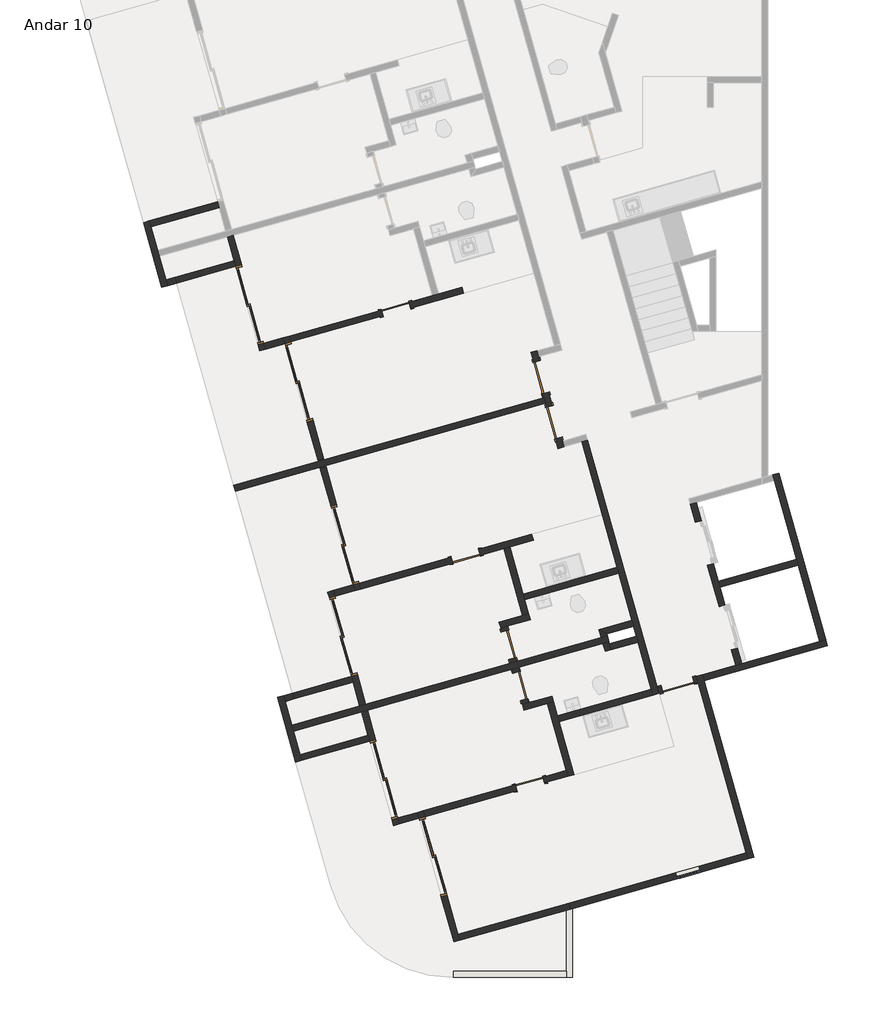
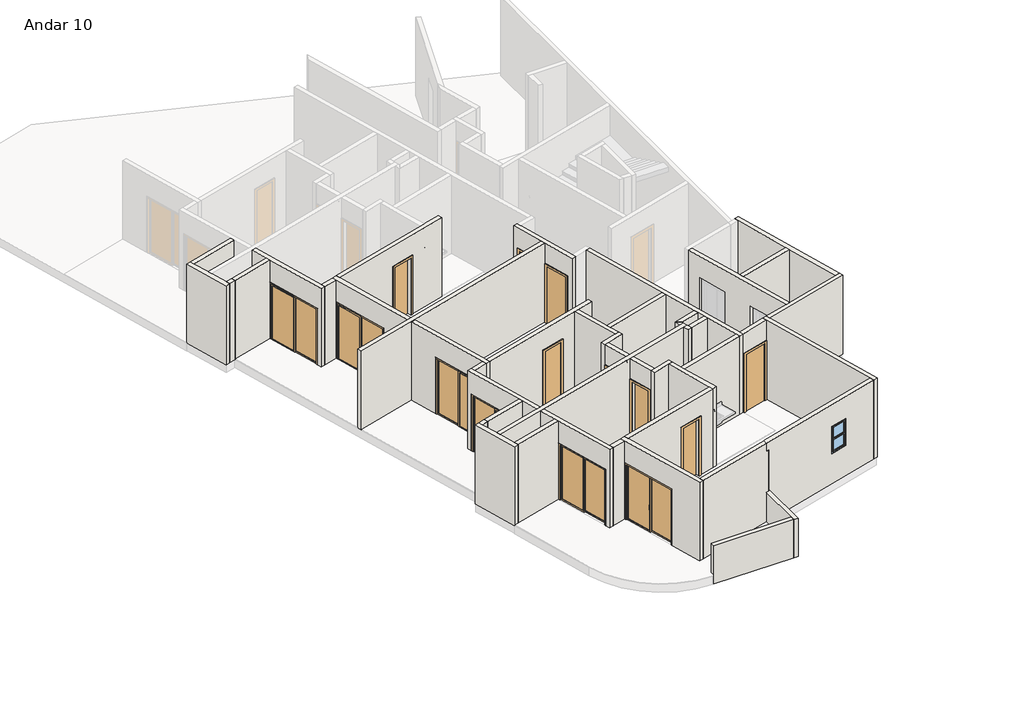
# One storey, part 1 of 3: 46 walls, 14 doors, 1 window.
"""IFC4 building model written with IfcOpenShell, lengths in millimetres."""

from ifc_helpers import new_model, si_unit, frame, origin, place, context, project, spatial, polyline, outline, extrude, faceted_brep, transform, mapped, element, save
from components import p2_80cm_9d4be4ef, p2_80cm_083652d6, p3_70cm_ef4d15e3, p3_70cm_0a698c7c, p4_correr_200cm_eaaa0877, p4_correr_200cm_830b8f20, bx_60cm_cef95a5c

model = new_model("IFC4")

# Units and contexts
model_context = context("Model", 3, world=origin())
ifc_project = project(units=[si_unit("LENGTHUNIT", "METRE", prefix="MILLI")], contexts=[model_context])

# Site, building, storey
site = spatial("IfcSite", under=ifc_project)
building = spatial("IfcBuilding", under=site)
storey = spatial("IfcBuildingStorey", under=building, Name="Andar 10", Elevation=79750.0)

# Doors
placement = place(None, origin())
p2_80cm_shape = p2_80cm_9d4be4ef(model_context)
element("IfcDoor", 1, ObjectType="M_Folha única1 : P2 - 80CM", at=placement, inside=storey, context=model_context, shape_type="MappedRepresentation", body=[
    mapped(p2_80cm_shape, transform((-80566.3456776, 19693.5423602, 79750.0), x_axis=(0.2717679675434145, -0.9623628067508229, 0.0), y_axis=(0.9623628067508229, 0.2717679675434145, 0.0), z_axis=(0.0, 0.0, 1.0))),
])
element("IfcDoor", 2, ObjectType="M_Folha única1 : P2 - 80CM", at=placement, inside=storey, context=model_context, shape_type="MappedRepresentation", body=[
    mapped(p2_80cm_shape, transform((-77213.6668366, 12144.847648, 79750.0), x_axis=(0.9623628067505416, 0.2717679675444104, 0.0), y_axis=(-0.2717679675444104, 0.9623628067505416, 0.0), z_axis=(0.0, 0.0, 1.0))),
])
p2_80cm_2_shape = p2_80cm_083652d6(model_context)
element("IfcDoor", 3, ObjectType="M_Folha única1 : P2 - 80CM", at=placement, inside=storey, context=model_context, shape_type="MappedRepresentation", body=[
    mapped(p2_80cm_2_shape, transform((-80253.8125149, 18586.8251325, 79750.0), x_axis=(-0.2717679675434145, 0.9623628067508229, 0.0), y_axis=(-0.9623628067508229, -0.2717679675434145, 0.0), z_axis=(0.0, 0.0, 1.0))),
])
p3_70cm_shape = p3_70cm_ef4d15e3(model_context)
element("IfcDoor", 4, ObjectType="M_Folha única1 : P3 - 70CM", at=placement, inside=storey, context=model_context, shape_type="MappedRepresentation", body=[
    mapped(p3_70cm_shape, transform((-84129.1775441, 21363.1168842, 79750.0), x_axis=(0.9623628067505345, 0.27176796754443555, 0.0), y_axis=(-0.27176796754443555, 0.9623628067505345, 0.0), z_axis=(0.0, 0.0, 1.0))),
])
element("IfcDoor", 5, ObjectType="M_Folha única1 : P3 - 70CM", at=placement, inside=storey, context=model_context, shape_type="MappedRepresentation", body=[
    mapped(p3_70cm_shape, transform((-80840.7851368, 9718.5269225, 79750.0), x_axis=(0.9623628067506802, 0.2717679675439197, 0.0), y_axis=(-0.2717679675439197, 0.9623628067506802, 0.0), z_axis=(0.0, 0.0, 1.0))),
])
element("IfcDoor", 6, ObjectType="M_Folha única1 : P3 - 70CM", at=placement, inside=storey, context=model_context, shape_type="MappedRepresentation", body=[
    mapped(p3_70cm_shape, transform((-81362.5862327, 13130.1209218, 79750.0), x_axis=(0.27176796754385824, -0.9623628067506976, 0.0), y_axis=(0.9623628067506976, 0.27176796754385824, 0.0), z_axis=(0.0, 0.0, 1.0))),
])
p3_70cm_2_shape = p3_70cm_0a698c7c(model_context)
element("IfcDoor", 7, ObjectType="M_Folha única1 : P3 - 70CM", at=placement, inside=storey, context=model_context, shape_type="MappedRepresentation", body=[
    mapped(p3_70cm_2_shape, transform((-81077.2298668, 12119.6399747, 79750.0), x_axis=(-0.27176796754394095, 0.9623628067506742, 0.0), y_axis=(-0.9623628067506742, -0.27176796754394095, 0.0), z_axis=(0.0, 0.0, 1.0))),
])
element("IfcDoor", 8, ObjectType="M_Folha única1 : P3 - 70CM", at=placement, inside=storey, context=model_context, shape_type="MappedRepresentation", body=[
    mapped(p3_70cm_2_shape, transform((-82417.0393485, 15300.2312016, 79750.0), x_axis=(0.9623628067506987, 0.2717679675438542, 0.0), y_axis=(-0.2717679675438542, 0.9623628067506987, 0.0), z_axis=(0.0, 0.0, 1.0))),
])
p4_correr_200cm_shape = p4_correr_200cm_eaaa0877(model_context)
element("IfcDoor", 9, ObjectType="Porta de correr dupla envidraçada sem revestimento : P4 - CORRER - 200CM", at=placement, inside=storey, context=model_context, shape_type="MappedRepresentation", body=[
    mapped(p4_correr_200cm_shape, transform((-86511.4049952, 19573.3416554, 79750.0), x_axis=(0.2717679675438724, -0.9623628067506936, 0.0), y_axis=(0.9623628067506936, 0.2717679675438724, 0.0), z_axis=(0.0, 0.0, 1.0))),
])
element("IfcDoor", 10, ObjectType="Porta de correr dupla envidraçada sem revestimento : P4 - CORRER - 200CM", at=placement, inside=storey, context=model_context, shape_type="MappedRepresentation", body=[
    mapped(p4_correr_200cm_shape, transform((-87717.4207223, 21466.8516126, 79750.0), x_axis=(0.2717679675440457, -0.9623628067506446, 0.0), y_axis=(0.9623628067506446, 0.2717679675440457, 0.0), z_axis=(0.0, 0.0, 1.0))),
])
element("IfcDoor", 11, ObjectType="Porta de correr dupla envidraçada sem revestimento : P4 - CORRER - 200CM", at=placement, inside=storey, context=model_context, shape_type="MappedRepresentation", body=[
    mapped(p4_correr_200cm_shape, transform((-84429.028315, 9822.2616509, 79750.0), x_axis=(-0.27176796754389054, 0.9623628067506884, 0.0), y_axis=(-0.9623628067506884, -0.27176796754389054, 0.0), z_axis=(0.0, 0.0, 1.0))),
])
element("IfcDoor", 12, ObjectType="Porta de correr dupla envidraçada sem revestimento : P4 - CORRER - 200CM", at=placement, inside=storey, context=model_context, shape_type="MappedRepresentation", body=[
    mapped(p4_correr_200cm_shape, transform((-83223.012588, 7928.7516937, 79750.0), x_axis=(-0.2717679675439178, 0.9623628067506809, 0.0), y_axis=(-0.9623628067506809, -0.2717679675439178, 0.0), z_axis=(0.0, 0.0, 1.0))),
])
p4_correr_200cm_2_shape = p4_correr_200cm_830b8f20(model_context)
element("IfcDoor", 13, ObjectType="Porta de correr dupla envidraçada sem revestimento : P4 - CORRER - 200CM", at=placement, inside=storey, context=model_context, shape_type="MappedRepresentation", body=[
    mapped(p4_correr_200cm_2_shape, transform((-85383.5679299, 15579.5360073, 79750.0), x_axis=(-0.2717679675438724, 0.9623628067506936, 0.0), y_axis=(-0.9623628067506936, -0.2717679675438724, 0.0), z_axis=(0.0, 0.0, 1.0))),
])
element("IfcDoor", 14, ObjectType="Porta de correr dupla envidraçada sem revestimento : P4 - CORRER - 200CM", at=placement, inside=storey, context=model_context, shape_type="MappedRepresentation", body=[
    mapped(p4_correr_200cm_2_shape, transform((-85420.9813965, 13334.8858955, 79750.0), x_axis=(-0.27176796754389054, 0.9623628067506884, 0.0), y_axis=(-0.9623628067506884, -0.27176796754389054, 0.0), z_axis=(0.0, 0.0, 1.0))),
])

# Walls
element("IfcWall", 15, ObjectType="Básica .15 - Externa", at=placement, inside=storey, context=model_context, shape_type="Brep", body=[
    faceted_brep([(-75344.9919691, 7919.3931149, 79750.0), (-76567.7484146, 12249.3196164, 79750.0), (-76608.5136097, 12393.6740374, 79750.0), (-76608.5136097, 12393.6740374, 82650.0), (-76567.7484146, 12249.3196164, 82650.0), (-75344.9919691, 7919.3931149, 82650.0), (-75489.3463901, 7878.6279198, 79750.0), (-75489.3463901, 7878.6279198, 82650.0), (-75530.1115852, 8022.9823408, 82650.0), (-76712.1028356, 12208.5544213, 82650.0), (-76752.8680308, 12352.9088423, 82650.0), (-76752.8680308, 12352.9088423, 79750.0), (-76712.1028356, 12208.5544213, 79750.0), (-75530.1115852, 8022.9823408, 79750.0)], [[[0, 1, 2, 3, 4, 5]], [[6, 7, 8, 9, 10, 11, 12, 13]], [[2, 1, 0, 6, 13, 12, 11]], [[5, 4, 3, 10, 9, 8, 7]], [[0, 5, 7, 6]], [[3, 2, 11, 10]]]),
])
element("IfcWall", 16, ObjectType="Básica .15 -  Interna", at=placement, inside=storey, context=model_context, shape_type="Brep", body=[
    faceted_brep([(-80529.815701, 19288.21464, 79750.0), (-80502.6389043, 19191.9783593, 79750.0), (-80461.8737092, 19047.6239383, 79750.0), (-80434.6969124, 18951.3876576, 79750.0), (-80434.6969124, 18951.3876576, 81850.0), (-80217.2825384, 18181.4974122, 81850.0), (-80217.2825384, 18181.4974122, 79750.0), (-80149.3405465, 17940.9067105, 79750.0), (-80149.3405465, 17940.9067105, 82650.0), (-80461.8737092, 19047.6239383, 82650.0), (-80502.6389043, 19191.9783593, 82650.0), (-80815.172067, 20298.695587, 82650.0), (-80815.172067, 20298.695587, 79750.0), (-80747.2300751, 20058.1048854, 79750.0), (-80747.2300751, 20058.1048854, 81850.0), (-80529.815701, 19288.21464, 81850.0), (-80290.3424914, 18992.1528527, 81850.0), (-80290.3424914, 18992.1528527, 79750.0), (-80385.46128, 19328.9798351, 79750.0), (-80385.46128, 19328.9798351, 81850.0), (-80602.8756541, 20098.8700805, 81850.0), (-80602.8756541, 20098.8700805, 79750.0), (-80630.0524508, 20195.1063612, 79750.0), (-80670.817646, 20339.4607822, 79750.0), (-80670.817646, 20339.4607822, 82650.0), (-80630.0524508, 20195.1063612, 82650.0), (-80045.7513206, 18126.0263266, 82650.0), (-80004.9861255, 17981.6719056, 82650.0), (-80004.9861255, 17981.6719056, 79750.0), (-80045.7513206, 18126.0263266, 79750.0), (-80072.9281174, 18222.2626073, 79750.0), (-80072.9281174, 18222.2626073, 81850.0)], [[[0, 1, 2, 3, 4, 5, 6, 7, 8, 9, 10, 11, 12, 13, 14, 15]], [[16, 17, 18, 19, 20, 21, 22, 23, 24, 25, 26, 27, 28, 29, 30, 31]], [[13, 12, 23, 22, 21]], [[18, 17, 3, 2, 1, 0]], [[30, 29, 28, 7, 6]], [[11, 10, 9, 8, 27, 26, 25, 24]], [[12, 11, 24, 23]], [[8, 7, 28, 27]], [[19, 18, 0, 15]], [[20, 19, 15, 14]], [[21, 20, 14, 13]], [[4, 3, 17, 16]], [[5, 4, 16, 31]], [[6, 5, 31, 30]]]),
])
element("IfcWall", 17, ObjectType="Básica .15 -  Interna", at=placement, inside=storey, context=model_context, shape_type="Brep", body=[
    faceted_brep([(-79571.9228624, 18103.967491, 79750.0), (-78702.2653663, 15024.4065094, 79750.0), (-78661.5001712, 14880.0520884, 79750.0), (-78335.3786101, 13725.2167203, 79750.0), (-78294.613415, 13580.8622993, 79750.0), (-78226.6714231, 13340.2715976, 79750.0), (-78185.906228, 13195.9171766, 79750.0), (-77818.8200634, 11896.0212586, 79750.0), (-77818.8200634, 11896.0212586, 82650.0), (-78185.906228, 13195.9171766, 82650.0), (-78226.6714231, 13340.2715976, 82650.0), (-78294.613415, 13580.8622993, 82650.0), (-78335.3786101, 13725.2167203, 82650.0), (-78661.5001712, 14880.0520884, 82650.0), (-78702.2653663, 15024.4065094, 82650.0), (-79571.9228624, 18103.967491, 82650.0), (-79427.5684414, 18144.7326862, 79750.0), (-79427.5684414, 18144.7326862, 82650.0), (-77715.2308375, 12081.1408747, 82650.0), (-77674.4656424, 11936.7864537, 82650.0), (-77674.4656424, 11936.7864537, 79750.0), (-77715.2308375, 12081.1408747, 79750.0)], [[[0, 1, 2, 3, 4, 5, 6, 7, 8, 9, 10, 11, 12, 13, 14, 15]], [[16, 17, 18, 19, 20, 21]], [[7, 6, 5, 4, 3, 2, 1, 0, 16, 21, 20]], [[15, 14, 13, 12, 11, 10, 9, 8, 19, 18, 17]], [[0, 15, 17, 16]], [[8, 7, 20, 19]]]),
])
element("IfcWall", 18, ObjectType="Básica .15 -  Interna", at=placement, inside=storey, context=model_context, shape_type="Brep", body=[
    faceted_brep([(-85017.5646639, 11630.3683862, 82650.0), (-85180.6254444, 12207.7860702, 82650.0), (-85221.3906395, 12352.1404912, 82650.0), (-85805.6917697, 14421.2205257, 82650.0), (-85805.6917697, 14421.2205257, 79750.0), (-85764.9265746, 14276.8661047, 79750.0), (-85764.9265746, 14276.8661047, 81850.0), (-85221.3906395, 12352.1404912, 81850.0), (-85221.3906395, 12352.1404912, 79750.0), (-85180.6254444, 12207.7860702, 79750.0), (-85017.5646639, 11630.3683862, 79750.0), (-85661.3373487, 14461.9857209, 82650.0), (-85620.5721536, 14317.6312998, 82650.0), (-84873.2102428, 11671.1335813, 82650.0), (-84873.2102428, 11671.1335813, 79750.0), (-85077.0362185, 12392.9056863, 79750.0), (-85077.0362185, 12392.9056863, 81850.0), (-85620.5721536, 14317.6312998, 81850.0), (-85620.5721536, 14317.6312998, 79750.0), (-85661.3373487, 14461.9857209, 79750.0)], [[[0, 1, 2, 3, 4, 5, 6, 7, 8, 9, 10]], [[11, 12, 13, 14, 15, 16, 17, 18, 19]], [[4, 19, 18, 5]], [[14, 10, 9, 8, 15]], [[3, 2, 1, 0, 13, 12, 11]], [[4, 3, 11, 19]], [[0, 10, 14, 13]], [[17, 6, 5, 18]], [[6, 17, 16, 7]], [[7, 16, 15, 8]]]),
])
element("IfcWall", 19, ObjectType="Básica .15 -  Interna", at=placement, inside=storey, context=model_context, shape_type="Brep", body=[
    faceted_brep([(-82710.8886682, 5839.2890616, 82650.0), (-83566.957766, 8870.7319029, 82650.0), (-83607.7229611, 9015.0863239, 82650.0), (-83607.7229611, 9015.0863239, 79750.0), (-83566.957766, 8870.7319029, 79750.0), (-83566.957766, 8870.7319029, 81850.0), (-83023.4218309, 6946.0062894, 81850.0), (-83023.4218309, 6946.0062894, 79750.0), (-82710.8886682, 5839.2890616, 79750.0), (-83463.3685401, 9055.851519, 82650.0), (-83422.603345, 8911.497098, 82650.0), (-82607.2994424, 6024.4086777, 82650.0), (-82566.5342472, 5880.0542567, 82650.0), (-82566.5342472, 5880.0542567, 79750.0), (-82607.2994424, 6024.4086777, 79750.0), (-82879.0674099, 6986.7714845, 79750.0), (-82879.0674099, 6986.7714845, 81850.0), (-83422.603345, 8911.497098, 81850.0), (-83422.603345, 8911.497098, 79750.0), (-83463.3685401, 9055.851519, 79750.0)], [[[0, 1, 2, 3, 4, 5, 6, 7, 8]], [[9, 10, 11, 12, 13, 14, 15, 16, 17, 18, 19]], [[3, 19, 18, 4]], [[13, 8, 7, 15, 14]], [[2, 1, 0, 12, 11, 10, 9]], [[3, 2, 9, 19]], [[0, 8, 13, 12]], [[17, 5, 4, 18]], [[5, 17, 16, 6]], [[6, 16, 15, 7]]]),
])
element("IfcWall", 20, ObjectType="Básica .15 -  Interna", at=placement, inside=storey, context=model_context, shape_type="Brep", body=[
    faceted_brep([(-86046.8404698, 17652.2925145, 79750.0), (-86046.8404698, 17652.2925145, 82650.0), (-86855.3501733, 20515.3218646, 82650.0), (-86896.1153684, 20659.6762856, 82650.0), (-86896.1153684, 20659.6762856, 79750.0), (-86855.3501733, 20515.3218646, 79750.0), (-86855.3501733, 20515.3218646, 81850.0), (-86311.8142382, 18590.596251, 81850.0), (-86311.8142382, 18590.596251, 79750.0), (-85902.4860488, 17693.0577096, 82650.0), (-85902.4860488, 17693.0577096, 79750.0), (-86167.4598172, 18631.3614462, 79750.0), (-86167.4598172, 18631.3614462, 81850.0), (-86710.9957523, 20556.0870597, 81850.0), (-86710.9957523, 20556.0870597, 79750.0), (-86751.7609474, 20700.4414807, 79750.0), (-86751.7609474, 20700.4414807, 82650.0), (-86710.9957523, 20556.0870597, 82650.0)], [[[0, 1, 2, 3, 4, 5, 6, 7, 8]], [[9, 10, 11, 12, 13, 14, 15, 16, 17]], [[10, 0, 8, 11]], [[4, 15, 14, 5]], [[1, 0, 10, 9]], [[3, 2, 1, 9, 17, 16]], [[4, 3, 16, 15]], [[7, 12, 11, 8]], [[12, 7, 6, 13]], [[13, 6, 5, 14]]]),
])
element("IfcWall", 21, ObjectType="Básica .15 - Externa", at=placement, inside=storey, context=model_context, shape_type="Brep", body=[
    faceted_brep([(-79945.4990038, 6620.2256515, 80850.0), (-79945.4990038, 6620.2256515, 79750.0), (-79945.4990038, 6620.2256515, 79450.0), (-79945.4990038, 5119.4122055, 79450.0), (-79945.4990038, 4969.4122055, 79450.0), (-79945.4990038, 4969.4122055, 80850.0), (-79945.4990038, 5119.4122055, 80850.0), (-79795.4990038, 6662.5851389, 79450.0), (-79795.4990038, 6662.5851389, 80850.0), (-79795.4990038, 4969.4122055, 80850.0), (-79795.4990038, 4969.4122055, 79450.0), (-79850.1164062, 6647.1613711, 79450.0)], [[[0, 1, 2, 3, 4, 5, 6]], [[7, 8, 9, 10]], [[4, 3, 2, 11, 7, 10]], [[0, 6, 5, 9, 8]], [[5, 4, 10, 9]], [[0, 8, 7, 11, 2, 1]]]),
])
element("IfcWall", 22, ObjectType="Básica .15 - Externa", at=placement, inside=storey, context=model_context, shape_type="SweptSolid", body=[
    extrude(outline(polyline([(-82713.5540687, 5119.4122055), (-79945.4990038, 5119.4122055), (-79945.4990038, 4969.4122055), (-82713.5540687, 4969.4122055), (-82713.5540687, 5119.4122055)])), frame((0.0, 0.0, 79450.0), z_axis=(0.0, 0.0, 1.0), x_axis=(1.0, 0.0, 0.0)), (0.0, 0.0, 1.0), 1400.0),
])
element("IfcWall", 23, ObjectType="Básica .15 - Externa", at=placement, inside=storey, context=model_context, shape_type="Brep", body=[
    faceted_brep([(-73581.8825825, 13248.3842954, 79750.0), (-73726.2370035, 13207.6191002, 79750.0), (-75646.150803, 12665.442005, 79750.0), (-75790.505224, 12624.6768098, 79750.0), (-76608.5136097, 12393.6740374, 79750.0), (-76608.5136097, 12393.6740374, 82650.0), (-75790.505224, 12624.6768098, 82650.0), (-75646.150803, 12665.442005, 82650.0), (-73726.2370035, 13207.6191002, 82650.0), (-73581.8825825, 13248.3842954, 82650.0), (-73541.1173874, 13104.0298743, 79750.0), (-73541.1173874, 13104.0298743, 82650.0), (-76567.7484146, 12249.3196164, 82650.0), (-76567.7484146, 12249.3196164, 79750.0)], [[[0, 1, 2, 3, 4, 5, 6, 7, 8, 9]], [[10, 11, 12, 13]], [[4, 3, 2, 1, 0, 10, 13]], [[9, 8, 7, 6, 5, 12, 11]], [[0, 9, 11, 10]], [[5, 4, 13, 12]]]),
])
element("IfcWall", 24, ObjectType="Básica .15 - Externa", at=placement, inside=storey, context=model_context, shape_type="Brep", body=[
    faceted_brep([(-74881.2508656, 17297.6610289, 79750.0), (-74840.4856705, 17153.3066079, 79750.0), (-74296.9497354, 15228.5809944, 79750.0), (-74256.1845402, 15084.2265734, 79750.0), (-73726.2370035, 13207.6191002, 79750.0), (-73726.2370035, 13207.6191002, 82650.0), (-74256.1845402, 15084.2265734, 82650.0), (-74296.9497354, 15228.5809944, 82650.0), (-74840.4856705, 17153.3066079, 82650.0), (-74881.2508656, 17297.6610289, 82650.0), (-74736.8964446, 17338.426224, 79750.0), (-74736.8964446, 17338.426224, 82650.0), (-73581.8825825, 13248.3842954, 82650.0), (-73581.8825825, 13248.3842954, 79750.0)], [[[0, 1, 2, 3, 4, 5, 6, 7, 8, 9]], [[10, 11, 12, 13]], [[4, 3, 2, 1, 0, 10, 13]], [[9, 8, 7, 6, 5, 12, 11]], [[0, 9, 11, 10]], [[5, 4, 13, 12]]]),
])
element("IfcWall", 25, ObjectType="Básica .15 -  Interna", at=placement, inside=storey, context=model_context, shape_type="Brep", body=[
    faceted_brep([(-76483.167581, 15077.4768805, 79750.0), (-76197.8112151, 14066.9959334, 79750.0), (-76197.8112151, 14066.9959334, 81875.0), (-75898.8664508, 13008.396846, 81875.0), (-75898.8664508, 13008.396846, 79750.0), (-75790.505224, 12624.6768098, 79750.0), (-75790.505224, 12624.6768098, 82650.0), (-76904.7538909, 16570.3643175, 82650.0), (-76904.7538909, 16570.3643175, 79750.0), (-76782.1123453, 16136.075968, 79750.0), (-76782.1123453, 16136.075968, 81875.0), (-76483.167581, 15077.4768805, 81875.0), (-76053.4567941, 14107.7611286, 81875.0), (-76053.4567941, 14107.7611286, 79750.0), (-76176.0983397, 14542.0494781, 79750.0), (-76216.8635348, 14686.4038991, 79750.0), (-76338.81316, 15118.2420757, 79750.0), (-76338.81316, 15118.2420757, 81875.0), (-76637.7579243, 16176.8411631, 81875.0), (-76637.7579243, 16176.8411631, 79750.0), (-76760.3994699, 16611.1295126, 79750.0), (-76760.3994699, 16611.1295126, 82650.0), (-76216.8635348, 14686.4038991, 82650.0), (-76176.0983397, 14542.0494781, 82650.0), (-75646.150803, 12665.442005, 82650.0), (-75646.150803, 12665.442005, 79750.0), (-75754.5120298, 13049.1620412, 79750.0), (-75754.5120298, 13049.1620412, 81875.0)], [[[0, 1, 2, 3, 4, 5, 6, 7, 8, 9, 10, 11]], [[12, 13, 14, 15, 16, 17, 18, 19, 20, 21, 22, 23, 24, 25, 26, 27]], [[9, 8, 20, 19]], [[26, 25, 5, 4]], [[16, 15, 14, 13, 1, 0]], [[7, 6, 24, 23, 22, 21]], [[8, 7, 21, 20]], [[6, 5, 25, 24]], [[4, 3, 27, 26]], [[2, 1, 13, 12]], [[3, 2, 12, 27]], [[19, 18, 10, 9]], [[17, 16, 0, 11]], [[18, 17, 11, 10]]]),
])
element("IfcWall", 26, ObjectType="Básica .15 -  Interna", at=placement, inside=storey, context=model_context, shape_type="SweptSolid", body=[
    extrude(outline(polyline([(-74256.1845402, 15084.2265734), (-76176.0983397, 14542.0494781), (-76216.8635348, 14686.4038991), (-74296.9497354, 15228.5809944), (-74256.1845402, 15084.2265734)])), frame((0.0, 0.0, 79750.0), z_axis=(0.0, 0.0, 1.0), x_axis=(1.0, 0.0, 0.0)), (0.0, 0.0, 1.0), 2900.0),
])
element("IfcWall", 27, ObjectType="Básica .15 -  Interna", at=placement, inside=storey, context=model_context, shape_type="Brep", body=[
    faceted_brep([(-82566.5342472, 5880.0542567, 79750.0), (-79945.4990038, 6620.2256515, 79750.0), (-79850.1164062, 6647.1613711, 79750.0), (-79850.1164062, 6647.1613711, 82350.0), (-79945.4990038, 6620.2256515, 82350.0), (-79945.4990038, 6620.2256515, 82650.0), (-82566.5342472, 5880.0542567, 82650.0), (-82607.2994424, 6024.4086777, 79750.0), (-82607.2994424, 6024.4086777, 82650.0), (-79945.4990038, 6776.0920243, 82650.0), (-79945.4990038, 6776.0920243, 82350.0), (-79890.8816014, 6791.5157921, 82350.0), (-79890.8816014, 6791.5157921, 79750.0), (-79945.4990038, 6776.0920243, 79750.0)], [[[0, 1, 2, 3, 4, 5, 6]], [[7, 8, 9, 10, 11, 12, 13]], [[2, 1, 0, 7, 13, 12]], [[6, 5, 9, 8]], [[0, 6, 8, 7]], [[2, 12, 11, 3]], [[10, 4, 3, 11]], [[5, 4, 10, 9]]]),
])
element("IfcWall", 28, ObjectType="Básica .15 -  Interna", at=placement, inside=storey, context=model_context, shape_type="Brep", body=[
    faceted_brep([(-85221.3906395, 12352.1404912, 79750.0), (-86668.7560772, 11943.4094383, 79750.0), (-86668.7560772, 11943.4094383, 82650.0), (-85221.3906395, 12352.1404912, 82650.0), (-85221.3906395, 12352.1404912, 81850.0), (-85180.6254444, 12207.7860702, 79750.0), (-85180.6254444, 12207.7860702, 82650.0), (-86627.9908821, 11799.0550173, 82650.0), (-86627.9908821, 11799.0550173, 79750.0)], [[[0, 1, 2, 3, 4]], [[5, 6, 7, 8]], [[1, 0, 5, 8]], [[2, 1, 8, 7]], [[3, 2, 7, 6]], [[0, 4, 3, 6, 5]]]),
])
element("IfcWall", 29, ObjectType="Básica .15 - Externa", at=placement, inside=storey, context=model_context, shape_type="Brep", body=[
    faceted_brep([(-86444.4738537, 10292.215871, 79750.0), (-86485.2390488, 10436.570292, 79750.0), (-86648.2998293, 11013.987976, 79750.0), (-86689.0650245, 11158.342397, 79750.0), (-86852.125805, 11735.7600811, 79750.0), (-86892.8910001, 11880.1145021, 79750.0), (-86892.8910001, 11880.1145021, 82650.0), (-86852.125805, 11735.7600811, 82650.0), (-86689.0650245, 11158.342397, 82650.0), (-86648.2998293, 11013.987976, 82650.0), (-86485.2390488, 10436.570292, 82650.0), (-86444.4738537, 10292.215871, 82650.0), (-86588.8282747, 10251.4506758, 79750.0), (-86588.8282747, 10251.4506758, 82650.0), (-87037.2454211, 11839.349307, 82650.0), (-87037.2454211, 11839.349307, 79750.0)], [[[0, 1, 2, 3, 4, 5, 6, 7, 8, 9, 10, 11]], [[12, 13, 14, 15]], [[5, 4, 3, 2, 1, 0, 12, 15]], [[11, 10, 9, 8, 7, 6, 14, 13]], [[6, 5, 15, 14]], [[0, 11, 13, 12]]]),
])
element("IfcWall", 30, ObjectType="Básica .15 -  Interna", at=placement, inside=storey, context=model_context, shape_type="Brep", body=[
    faceted_brep([(-86444.4738537, 10292.215871, 79750.0), (-84772.9734931, 10764.2418601, 79750.0), (-84772.9734931, 10764.2418601, 81850.0), (-84772.9734931, 10764.2418601, 82650.0), (-86444.4738537, 10292.215871, 82650.0), (-86485.2390488, 10436.570292, 79750.0), (-86485.2390488, 10436.570292, 82650.0), (-84813.7386882, 10908.5962811, 82650.0), (-84813.7386882, 10908.5962811, 79750.0)], [[[0, 1, 2, 3, 4]], [[5, 6, 7, 8]], [[1, 0, 5, 8]], [[4, 3, 7, 6]], [[0, 4, 6, 5]], [[3, 2, 1, 8, 7]]]),
])
element("IfcWall", 31, ObjectType="Básica .15 - Externa", at=placement, inside=storey, context=model_context, shape_type="Brep", body=[
    faceted_brep([(-89732.866261, 21936.8058326, 79750.0), (-89773.6314561, 22081.1602536, 79750.0), (-89936.6922366, 22658.5779377, 79750.0), (-89977.4574318, 22802.9323587, 79750.0), (-90140.5182123, 23380.3500428, 79750.0), (-90181.2834074, 23524.7044638, 79750.0), (-90181.2834074, 23524.7044638, 82650.0), (-90140.5182123, 23380.3500428, 82650.0), (-89977.4574318, 22802.9323587, 82650.0), (-89936.6922366, 22658.5779377, 82650.0), (-89773.6314561, 22081.1602536, 82650.0), (-89732.866261, 21936.8058326, 82650.0), (-89877.220682, 21896.0406375, 79750.0), (-89877.220682, 21896.0406375, 82650.0), (-90325.6378284, 23483.9392686, 82650.0), (-90325.6378284, 23483.9392686, 79750.0)], [[[0, 1, 2, 3, 4, 5, 6, 7, 8, 9, 10, 11]], [[12, 13, 14, 15]], [[5, 4, 3, 2, 1, 0, 12, 15]], [[11, 10, 9, 8, 7, 6, 14, 13]], [[0, 11, 13, 12]], [[6, 5, 15, 14]]]),
])
element("IfcWall", 32, ObjectType="Básica .15 -  Interna", at=placement, inside=storey, context=model_context, shape_type="Brep", body=[
    faceted_brep([(-88102.1310955, 22553.1862428, 79750.0), (-89549.4965332, 22144.4551899, 79750.0), (-89549.4965332, 22144.4551899, 82650.0), (-88102.1310955, 22553.1862428, 82650.0), (-88061.3659003, 22408.8318218, 79750.0), (-88061.3659003, 22408.8318218, 81850.0), (-88061.3659003, 22408.8318218, 82650.0), (-89508.731338, 22000.1007688, 82650.0), (-89508.731338, 22000.1007688, 79750.0)], [[[0, 1, 2, 3]], [[4, 5, 6, 7, 8]], [[1, 0, 4, 8]], [[2, 1, 8, 7]], [[3, 2, 7, 6]], [[0, 3, 6, 5, 4]]]),
])
element("IfcWall", 33, ObjectType="Básica .15 -  Interna", at=placement, inside=storey, context=model_context, shape_type="Brep", body=[
    faceted_brep([(-90140.5182123, 23380.3500428, 79750.0), (-88469.0178517, 23852.3760319, 79750.0), (-88469.0178517, 23852.3760319, 82650.0), (-90140.5182123, 23380.3500428, 82650.0), (-90181.2834074, 23524.7044638, 79750.0), (-90181.2834074, 23524.7044638, 82650.0), (-88509.7830468, 23996.7304529, 82650.0), (-88509.7830468, 23996.7304529, 81850.0), (-88509.7830468, 23996.7304529, 79750.0)], [[[0, 1, 2, 3]], [[4, 5, 6, 7, 8]], [[1, 0, 4, 8]], [[3, 2, 6, 5]], [[0, 3, 5, 4]], [[2, 1, 8, 7, 6]]]),
])
element("IfcWall", 34, ObjectType="Básica .15 -  Interna", at=placement, inside=storey, context=model_context, shape_type="Brep", body=[
    faceted_brep([(-86896.1153684, 20659.6762856, 79750.0), (-87373.4755442, 20524.8714034, 79750.0), (-87373.4755442, 20524.8714034, 81850.0), (-87373.4755442, 20524.8714034, 82650.0), (-86896.1153684, 20659.6762856, 82650.0), (-86855.3501733, 20515.3218646, 79750.0), (-86855.3501733, 20515.3218646, 81850.0), (-86855.3501733, 20515.3218646, 82650.0), (-87332.7103491, 20380.5169824, 82650.0), (-87332.7103491, 20380.5169824, 79750.0)], [[[0, 1, 2, 3, 4]], [[5, 6, 7, 8, 9]], [[1, 0, 5, 9]], [[4, 3, 8, 7]], [[0, 4, 7, 6, 5]], [[3, 2, 1, 9, 8]]]),
])
element("IfcWall", 35, ObjectType="Básica .15 -  Interna", at=placement, inside=storey, context=model_context, shape_type="Brep", body=[
    faceted_brep([(-83607.7229611, 9015.0863239, 79750.0), (-84085.083137, 8880.2814417, 79750.0), (-84085.083137, 8880.2814417, 81850.0), (-84085.083137, 8880.2814417, 82650.0), (-83607.7229611, 9015.0863239, 82650.0), (-83566.957766, 8870.7319029, 79750.0), (-83566.957766, 8870.7319029, 81850.0), (-83566.957766, 8870.7319029, 82650.0), (-84044.3179418, 8735.9270207, 82650.0), (-84044.3179418, 8735.9270207, 79750.0)], [[[0, 1, 2, 3, 4]], [[5, 6, 7, 8, 9]], [[1, 0, 5, 9]], [[4, 3, 8, 7]], [[3, 2, 1, 9, 8]], [[0, 4, 7, 6, 5]]]),
])
element("IfcWall", 36, ObjectType="Básica .15 -  Interna", at=placement, inside=storey, context=model_context, shape_type="Brep", body=[
    faceted_brep([(-85183.9771729, 14596.790603, 79750.0), (-85661.3373487, 14461.9857209, 79750.0), (-85661.3373487, 14461.9857209, 82650.0), (-85183.9771729, 14596.790603, 82650.0), (-85183.9771729, 14596.790603, 81850.0), (-85143.2119778, 14452.436182, 79750.0), (-85143.2119778, 14452.436182, 82650.0), (-85620.5721536, 14317.6312998, 82650.0), (-85620.5721536, 14317.6312998, 81850.0), (-85620.5721536, 14317.6312998, 79750.0)], [[[0, 1, 2, 3, 4]], [[5, 6, 7, 8, 9]], [[1, 0, 5, 9]], [[3, 2, 7, 6]], [[2, 1, 9, 8, 7]], [[0, 4, 3, 6, 5]]]),
])
element("IfcWall", 37, ObjectType="Básica .15 -  Interna", at=placement, inside=storey, context=model_context, shape_type="Brep", body=[
    faceted_brep([(-87477.0647701, 20339.7517872, 82650.0), (-88061.3659003, 22408.8318218, 82650.0), (-88102.1310955, 22553.1862428, 82650.0), (-88265.191876, 23130.6039268, 82650.0), (-88265.191876, 23130.6039268, 79750.0), (-88102.1310955, 22553.1862428, 79750.0), (-88061.3659003, 22408.8318218, 79750.0), (-88061.3659003, 22408.8318218, 81850.0), (-87517.8299653, 20484.1062083, 81850.0), (-87517.8299653, 20484.1062083, 79750.0), (-87477.0647701, 20339.7517872, 79750.0), (-88120.837455, 23171.369122, 82650.0), (-87373.4755442, 20524.8714034, 82650.0), (-87332.7103491, 20380.5169824, 82650.0), (-87332.7103491, 20380.5169824, 79750.0), (-87373.4755442, 20524.8714034, 79750.0), (-87373.4755442, 20524.8714034, 81850.0), (-87917.0114793, 22449.5970169, 81850.0), (-87917.0114793, 22449.5970169, 79750.0), (-88120.837455, 23171.369122, 79750.0)], [[[0, 1, 2, 3, 4, 5, 6, 7, 8, 9, 10]], [[11, 12, 13, 14, 15, 16, 17, 18, 19]], [[14, 10, 9, 15]], [[4, 19, 18, 6, 5]], [[3, 2, 1, 0, 13, 12, 11]], [[0, 10, 14, 13]], [[4, 3, 11, 19]], [[8, 16, 15, 9]], [[16, 8, 7, 17]], [[17, 7, 6, 18]]]),
])
element("IfcWall", 38, ObjectType="Básica .15 -  Interna", at=placement, inside=storey, context=model_context, shape_type="Brep", body=[
    faceted_brep([(-85143.2119778, 14452.436182, 82650.0), (-85183.9771729, 14596.790603, 82650.0), (-85992.4868763, 17459.8199531, 82650.0), (-85992.4868763, 17459.8199531, 79750.0), (-85727.513108, 16521.5162165, 79750.0), (-85727.513108, 16521.5162165, 81850.0), (-85183.9771729, 14596.790603, 81850.0), (-85183.9771729, 14596.790603, 79750.0), (-85143.2119778, 14452.436182, 79750.0), (-85848.1324553, 17500.5851482, 82650.0), (-85039.6227519, 14637.5557982, 82650.0), (-84998.8575568, 14493.2013772, 82650.0), (-84998.8575568, 14493.2013772, 79750.0), (-85039.6227519, 14637.5557982, 79750.0), (-85039.6227519, 14637.5557982, 81850.0), (-85583.158687, 16562.2814117, 81850.0), (-85583.158687, 16562.2814117, 79750.0), (-85848.1324553, 17500.5851482, 79750.0)], [[[0, 1, 2, 3, 4, 5, 6, 7, 8]], [[9, 10, 11, 12, 13, 14, 15, 16, 17]], [[3, 17, 16, 4]], [[12, 8, 7, 13]], [[2, 1, 0, 11, 10, 9]], [[3, 2, 9, 17]], [[0, 8, 12, 11]], [[15, 5, 4, 16]], [[5, 15, 14, 6]], [[6, 14, 13, 7]]]),
])
element("IfcWall", 39, ObjectType="Básica .15 -  Interna", at=placement, inside=storey, context=model_context, shape_type="SweptSolid", body=[
    extrude(outline(polyline([(-80461.8737092, 19047.6239383), (-88068.36111, 16899.5778931), (-88109.1263052, 17043.9323141), (-80502.6389043, 19191.9783593), (-80461.8737092, 19047.6239383)])), frame((0.0, 0.0, 79750.0), z_axis=(0.0, 0.0, 1.0), x_axis=(1.0, 0.0, 0.0)), (0.0, 0.0, 1.0), 2900.0),
])
element("IfcWall", 40, ObjectType="Básica .15 -  Interna", at=placement, inside=storey, context=model_context, shape_type="Brep", body=[
    faceted_brep([(-78945.0553533, 13345.2242614, 79750.0), (-81168.1134369, 12717.4402563, 79750.0), (-81312.4678579, 12676.6750612, 79750.0), (-84873.2102428, 11671.1335813, 79750.0), (-85017.5646639, 11630.3683862, 79750.0), (-86689.0650245, 11158.342397, 79750.0), (-86689.0650245, 11158.342397, 82650.0), (-85017.5646639, 11630.3683862, 82650.0), (-84873.2102428, 11671.1335813, 82650.0), (-81312.4678579, 12676.6750612, 82650.0), (-81168.1134369, 12717.4402563, 82650.0), (-78945.0553533, 13345.2242614, 82650.0), (-78904.2901581, 13200.8698403, 79750.0), (-78904.2901581, 13200.8698403, 82650.0), (-81127.3482417, 12573.0858353, 82650.0), (-81271.7026627, 12532.3206402, 82650.0), (-84832.4450477, 11526.7791603, 82650.0), (-84976.7994687, 11486.0139651, 82650.0), (-86648.2998293, 11013.987976, 82650.0), (-86648.2998293, 11013.987976, 79750.0), (-84976.7994687, 11486.0139651, 79750.0), (-84832.4450477, 11526.7791603, 79750.0), (-81271.7026627, 12532.3206402, 79750.0), (-81127.3482417, 12573.0858353, 79750.0)], [[[0, 1, 2, 3, 4, 5, 6, 7, 8, 9, 10, 11]], [[12, 13, 14, 15, 16, 17, 18, 19, 20, 21, 22, 23]], [[5, 4, 3, 2, 1, 0, 12, 23, 22, 21, 20, 19]], [[11, 10, 9, 8, 7, 6, 18, 17, 16, 15, 14, 13]], [[0, 11, 13, 12]], [[6, 5, 19, 18]]]),
])
element("IfcWall", 41, ObjectType="Básica .15 -  Interna", at=placement, inside=storey, context=model_context, shape_type="Brep", body=[
    faceted_brep([(-84188.6723628, 8695.1618256, 82650.0), (-84772.9734931, 10764.2418601, 82650.0), (-84813.7386882, 10908.5962811, 82650.0), (-84976.7994687, 11486.0139651, 82650.0), (-84976.7994687, 11486.0139651, 79750.0), (-84813.7386882, 10908.5962811, 79750.0), (-84772.9734931, 10764.2418601, 79750.0), (-84772.9734931, 10764.2418601, 81850.0), (-84229.437558, 8839.5162466, 81850.0), (-84229.437558, 8839.5162466, 79750.0), (-84188.6723628, 8695.1618256, 79750.0), (-84832.4450477, 11526.7791603, 82650.0), (-84085.083137, 8880.2814417, 82650.0), (-84044.3179418, 8735.9270207, 82650.0), (-84044.3179418, 8735.9270207, 79750.0), (-84085.083137, 8880.2814417, 79750.0), (-84085.083137, 8880.2814417, 81850.0), (-84628.6190721, 10805.0070552, 81850.0), (-84628.6190721, 10805.0070552, 79750.0), (-84832.4450477, 11526.7791603, 79750.0)], [[[0, 1, 2, 3, 4, 5, 6, 7, 8, 9, 10]], [[11, 12, 13, 14, 15, 16, 17, 18, 19]], [[14, 10, 9, 15]], [[4, 19, 18, 6, 5]], [[3, 2, 1, 0, 13, 12, 11]], [[0, 10, 14, 13]], [[4, 3, 11, 19]], [[17, 7, 6, 18]], [[7, 17, 16, 8]], [[8, 16, 15, 9]]]),
])
element("IfcWall", 42, ObjectType="Básica .15 - Externa", at=placement, inside=storey, context=model_context, shape_type="Brep", body=[
    faceted_brep([(-79850.1164062, 6647.1613711, 82350.0), (-79850.1164062, 6647.1613711, 79750.0), (-75489.3463901, 7878.6279198, 79750.0), (-75489.3463901, 7878.6279198, 82650.0), (-79850.1164062, 6647.1613711, 82650.0), (-79945.4990038, 6620.2256515, 82650.0), (-79945.4990038, 6620.2256515, 82350.0), (-76649.6431667, 7550.9640756, 80850.0), (-77227.0608508, 7387.9032951, 80850.0), (-77227.0608508, 7387.9032951, 81850.0), (-76649.6431667, 7550.9640756, 81850.0), (-79890.8816014, 6791.5157921, 79750.0), (-79890.8816014, 6791.5157921, 82350.0), (-79945.4990038, 6776.0920243, 82350.0), (-79945.4990038, 6776.0920243, 82650.0), (-79890.8816014, 6791.5157921, 82650.0), (-75530.1115852, 8022.9823408, 82650.0), (-75530.1115852, 8022.9823408, 79750.0), (-76690.4083619, 7695.3184966, 80850.0), (-76690.4083619, 7695.3184966, 81850.0), (-77267.8260459, 7532.2577161, 81850.0), (-77267.8260459, 7532.2577161, 80850.0)], [[[0, 1, 2, 3, 4, 5, 6], [7, 8, 9, 10]], [[11, 12, 13, 14, 15, 16, 17], [18, 19, 20, 21]], [[2, 1, 11, 17]], [[5, 4, 3, 16, 15, 14]], [[18, 21, 8, 7]], [[21, 20, 9, 8]], [[20, 19, 10, 9]], [[19, 18, 7, 10]], [[3, 2, 17, 16]], [[0, 12, 11, 1]], [[6, 13, 12, 0]], [[6, 5, 14, 13]]]),
])
element("IfcWall", 43, ObjectType="Básica .15 - Externa", at=placement, inside=storey, context=model_context, shape_type="SweptSolid", body=[
    extrude(outline(polyline([(-89773.6314561, 22081.1602536), (-89549.4965332, 22144.4551899), (-89508.731338, 22000.1007688), (-89732.866261, 21936.8058326), (-89773.6314561, 22081.1602536)])), frame((0.0, 0.0, 79750.0), z_axis=(0.0, 0.0, 1.0), x_axis=(1.0, 0.0, 0.0)), (0.0, 0.0, 1.0), 2900.0),
])
element("IfcWall", 44, ObjectType="Básica .15 - Externa", at=placement, inside=storey, context=model_context, shape_type="SweptSolid", body=[
    extrude(outline(polyline([(-86892.8910001, 11880.1145021), (-86668.7560772, 11943.4094383), (-86627.9908821, 11799.0550173), (-86852.125805, 11735.7600811), (-86892.8910001, 11880.1145021)])), frame((0.0, 0.0, 79750.0), z_axis=(0.0, 0.0, 1.0), x_axis=(1.0, 0.0, 0.0)), (0.0, 0.0, 1.0), 2900.0),
])
element("IfcWall", 45, ObjectType="Básica .15 -  Interna", at=placement, inside=storey, context=model_context, shape_type="Brep", body=[
    faceted_brep([(-82513.5433702, 21897.2996395, 79750.0), (-83090.9610542, 21734.238859, 79750.0), (-83235.3154752, 21693.4736638, 79750.0), (-83812.7331593, 21530.4128833, 79750.0), (-83812.7331593, 21530.4128833, 81850.0), (-84486.387124, 21340.175306, 81850.0), (-84486.387124, 21340.175306, 79750.0), (-86751.7609474, 20700.4414807, 79750.0), (-86751.7609474, 20700.4414807, 82650.0), (-83235.3154752, 21693.4736638, 82650.0), (-83090.9610542, 21734.238859, 82650.0), (-82513.5433702, 21897.2996395, 82650.0), (-83771.9679641, 21386.0584623, 81850.0), (-83771.9679641, 21386.0584623, 79750.0), (-82472.778175, 21752.9452185, 79750.0), (-82472.778175, 21752.9452185, 82650.0), (-86710.9957523, 20556.0870597, 82650.0), (-86710.9957523, 20556.0870597, 81850.0), (-86710.9957523, 20556.0870597, 79750.0), (-84445.6219289, 21195.820885, 79750.0), (-84445.6219289, 21195.820885, 81850.0)], [[[0, 1, 2, 3, 4, 5, 6, 7, 8, 9, 10, 11]], [[12, 13, 14, 15, 16, 17, 18, 19, 20]], [[19, 18, 7, 6]], [[14, 13, 3, 2, 1, 0]], [[11, 10, 9, 8, 16, 15]], [[0, 11, 15, 14]], [[4, 3, 13, 12]], [[5, 4, 12, 20]], [[6, 5, 20, 19]], [[8, 7, 18, 17, 16]]]),
])
element("IfcWall", 46, ObjectType="Básica .15 -  Interna", at=placement, inside=storey, context=model_context, shape_type="SweptSolid", body=[
    extrude(outline(polyline([(-80169.4554031, 11388.8386864), (-77859.7846669, 12041.0818085), (-77819.0194718, 11896.7273875), (-80128.690208, 11244.4842654), (-80169.4554031, 11388.8386864)])), frame((0.0, 0.0, 79750.0), z_axis=(0.0, 0.0, 1.0), x_axis=(1.0, 0.0, 0.0)), (0.0, 0.0, 1.0), 2900.0),
])
element("IfcWall", 47, ObjectType="Básica .15 -  Interna", at=placement, inside=storey, context=model_context, shape_type="SweptSolid", body=[
    extrude(outline(polyline([(-78185.906228, 13195.9171766), (-78849.9365646, 13008.397279), (-78890.7017597, 13152.7517), (-78226.6714231, 13340.2715976), (-78185.906228, 13195.9171766)])), frame((0.0, 0.0, 79750.0), z_axis=(0.0, 0.0, 1.0), x_axis=(1.0, 0.0, 0.0)), (0.0, 0.0, 1.0), 2900.0),
])
element("IfcWall", 48, ObjectType="Básica .15 -  Interna", at=placement, inside=storey, context=model_context, shape_type="Brep", body=[
    faceted_brep([(-80986.3462968, 11521.8396931, 79750.0), (-80408.9286128, 11684.9004736, 79750.0), (-80264.5741917, 11725.6656688, 79750.0), (-80264.5741917, 11725.6656688, 82650.0), (-80408.9286128, 11684.9004736, 82650.0), (-80986.3462968, 11521.8396931, 82650.0), (-81027.1114919, 11666.1941141, 79750.0), (-81027.1114919, 11666.1941141, 82650.0), (-80882.7570709, 11706.9593092, 82650.0), (-80305.3393869, 11870.0200898, 82650.0), (-80305.3393869, 11870.0200898, 79750.0), (-80882.7570709, 11706.9593092, 79750.0)], [[[0, 1, 2, 3, 4, 5]], [[6, 7, 8, 9, 10, 11]], [[2, 1, 0, 6, 11, 10]], [[5, 4, 3, 9, 8, 7]], [[0, 5, 7, 6]], [[3, 2, 10, 9]]]),
])
element("IfcWall", 49, ObjectType="Básica .15 -  Interna", at=placement, inside=storey, context=model_context, shape_type="SweptSolid", body=[
    extrude(outline(polyline([(900.0, -2900.0), (0.0, -2900.0), (0.0, 0.0), (100.0, 0.0), (100.0, -2100.0), (800.0, -2100.0), (800.0, 0.0), (900.0, 0.0), (900.0, -2900.0)])), frame((-81271.7026627, 12532.3206402, 79750.0), z_axis=(0.9623628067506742, 0.271767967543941, 0.0), x_axis=(0.271767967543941, -0.9623628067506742, 0.0)), (0.0, 0.0, 1.0), 150.0),
])
element("IfcWall", 50, ObjectType="Básica .15 -  Interna", at=placement, inside=storey, context=model_context, shape_type="Brep", body=[
    faceted_brep([(-80408.9286128, 11684.9004736, 79750.0), (-79946.9230679, 10048.8837021, 79750.0), (-79906.1578728, 9904.5292811, 79750.0), (-79906.1578728, 9904.5292811, 82650.0), (-79946.9230679, 10048.8837021, 82650.0), (-80408.9286128, 11684.9004736, 82650.0), (-80264.5741917, 11725.6656688, 79750.0), (-80264.5741917, 11725.6656688, 82650.0), (-80169.4554031, 11388.8386864, 82650.0), (-80128.690208, 11244.4842654, 82650.0), (-79761.8034518, 9945.2944763, 82650.0), (-79761.8034518, 9945.2944763, 79750.0), (-80128.690208, 11244.4842654, 79750.0), (-80169.4554031, 11388.8386864, 79750.0)], [[[0, 1, 2, 3, 4, 5]], [[6, 7, 8, 9, 10, 11, 12, 13]], [[2, 1, 0, 6, 13, 12, 11]], [[5, 4, 3, 10, 9, 8, 7]], [[3, 2, 11, 10]], [[0, 5, 7, 6]]]),
])
element("IfcWall", 51, ObjectType="Básica .15 -  Interna", at=placement, inside=storey, context=model_context, shape_type="Brep", body=[
    faceted_brep([(-79946.9230679, 10048.8837021, 79750.0), (-80524.340752, 9885.8229216, 79750.0), (-80524.340752, 9885.8229216, 81850.0), (-81197.9947167, 9695.5853443, 81850.0), (-81197.9947167, 9695.5853443, 79750.0), (-83463.3685401, 9055.851519, 79750.0), (-83463.3685401, 9055.851519, 82650.0), (-79946.9230679, 10048.8837021, 82650.0), (-80483.5755569, 9741.4685006, 81850.0), (-80483.5755569, 9741.4685006, 79750.0), (-79906.1578728, 9904.5292811, 79750.0), (-79906.1578728, 9904.5292811, 82650.0), (-83422.603345, 8911.497098, 82650.0), (-83422.603345, 8911.497098, 81850.0), (-83422.603345, 8911.497098, 79750.0), (-81157.2295216, 9551.2309233, 79750.0), (-81157.2295216, 9551.2309233, 81850.0)], [[[0, 1, 2, 3, 4, 5, 6, 7]], [[8, 9, 10, 11, 12, 13, 14, 15, 16]], [[15, 14, 5, 4]], [[10, 9, 1, 0]], [[7, 6, 12, 11]], [[2, 1, 9, 8]], [[3, 2, 8, 16]], [[4, 3, 16, 15]], [[0, 7, 11, 10]], [[6, 5, 14, 13, 12]]]),
])
element("IfcWall", 52, ObjectType="Básica .15 -  Interna", at=placement, inside=storey, context=model_context, shape_type="Brep", body=[
    faceted_brep([(-79048.6445791, 13160.1046452, 79750.0), (-78994.2909856, 12967.6320839, 79750.0), (-78994.2909856, 12967.6320839, 82650.0), (-79048.6445791, 13160.1046452, 82650.0), (-78904.2901581, 13200.8698403, 79750.0), (-78904.2901581, 13200.8698403, 82650.0), (-78890.7017597, 13152.7517, 82650.0), (-78849.9365646, 13008.397279, 82650.0), (-78849.9365646, 13008.397279, 79750.0), (-78890.7017597, 13152.7517, 79750.0)], [[[0, 1, 2, 3]], [[4, 5, 6, 7, 8, 9]], [[1, 0, 4, 9, 8]], [[3, 2, 7, 6, 5]], [[0, 3, 5, 4]], [[2, 1, 8, 7]]]),
])
element("IfcWall", 53, ObjectType="Básica .15 -  Interna", at=placement, inside=storey, context=model_context, shape_type="SweptSolid", body=[
    extrude(outline(polyline([(-79143.7633678, 13496.9316276), (-78335.3786101, 13725.2167203), (-78294.613415, 13580.8622993), (-78958.6437516, 13393.3424017), (-79143.7633678, 13496.9316276)])), frame((0.0, 0.0, 79750.0), z_axis=(0.0, 0.0, 1.0), x_axis=(1.0, 0.0, 0.0)), (0.0, 0.0, 1.0), 2900.0),
])
element("IfcWall", 54, ObjectType="Básica .15 -  Interna", at=placement, inside=storey, context=model_context, shape_type="SweptSolid", body=[
    extrude(outline(polyline([(-79089.4097743, 13304.4590662), (-79143.7633678, 13496.9316276), (-78958.6437516, 13393.3424017), (-78945.0553533, 13345.2242614), (-79089.4097743, 13304.4590662)])), frame((0.0, 0.0, 79750.0), z_axis=(0.0, 0.0, 1.0), x_axis=(1.0, 0.0, 0.0)), (0.0, 0.0, 1.0), 2900.0),
])
element("IfcWall", 55, ObjectType="Básica .15 -  Interna", at=placement, inside=storey, context=model_context, shape_type="Brep", body=[
    faceted_brep([(-80876.0521187, 13890.981984, 79750.0), (-81020.4065397, 13850.2167888, 79750.0), (-81597.8242238, 13687.1560083, 79750.0), (-81597.8242238, 13687.1560083, 82650.0), (-81020.4065397, 13850.2167888, 82650.0), (-80876.0521187, 13890.981984, 82650.0), (-80835.2869236, 13746.6275629, 79750.0), (-80835.2869236, 13746.6275629, 82650.0), (-81412.7046076, 13583.5667824, 82650.0), (-81557.0590287, 13542.8015873, 82650.0), (-81557.0590287, 13542.8015873, 79750.0), (-81412.7046076, 13583.5667824, 79750.0)], [[[0, 1, 2, 3, 4, 5]], [[6, 7, 8, 9, 10, 11]], [[2, 1, 0, 6, 11, 10]], [[5, 4, 3, 9, 8, 7]], [[0, 5, 7, 6]], [[3, 2, 10, 9]]]),
])
element("IfcWall", 56, ObjectType="Básica .15 -  Interna", at=placement, inside=storey, context=model_context, shape_type="Brep", body=[
    faceted_brep([(-81482.4120846, 15486.2335603, 79750.0), (-81020.4065397, 13850.2167888, 79750.0), (-81020.4065397, 13850.2167888, 82650.0), (-81482.4120846, 15486.2335603, 82650.0), (-81338.0576635, 15526.9987554, 79750.0), (-81338.0576635, 15526.9987554, 82650.0), (-81011.9361025, 14372.1633873, 82650.0), (-80971.1709074, 14227.8089663, 82650.0), (-80876.0521187, 13890.981984, 82650.0), (-80876.0521187, 13890.981984, 79750.0), (-80971.1709074, 14227.8089663, 79750.0), (-81011.9361025, 14372.1633873, 79750.0)], [[[0, 1, 2, 3]], [[4, 5, 6, 7, 8, 9, 10, 11]], [[1, 0, 4, 11, 10, 9]], [[3, 2, 8, 7, 6, 5]], [[0, 3, 5, 4]], [[2, 1, 9, 8]]]),
])
element("IfcWall", 57, ObjectType="Básica .15 -  Interna", at=placement, inside=storey, context=model_context, shape_type="SweptSolid", body=[
    extrude(outline(polyline([(-81011.9361025, 14372.1633873), (-78702.2653663, 15024.4065094), (-78661.5001712, 14880.0520884), (-80971.1709074, 14227.8089663), (-81011.9361025, 14372.1633873)])), frame((0.0, 0.0, 79750.0), z_axis=(0.0, 0.0, 1.0), x_axis=(1.0, 0.0, 0.0)), (0.0, 0.0, 1.0), 2900.0),
])
element("IfcWall", 58, ObjectType="Básica .15 -  Interna", at=placement, inside=storey, context=model_context, shape_type="Brep", body=[
    faceted_brep([(-80801.4051746, 15834.413957, 79750.0), (-82100.5949637, 15467.5272008, 79750.0), (-82100.5949637, 15467.5272008, 81850.0), (-82774.2489285, 15277.2896235, 81850.0), (-82774.2489285, 15277.2896235, 79750.0), (-85039.6227519, 14637.5557982, 79750.0), (-85039.6227519, 14637.5557982, 81850.0), (-85039.6227519, 14637.5557982, 82650.0), (-80801.4051746, 15834.413957, 82650.0), (-82059.8297686, 15323.1727798, 81850.0), (-82059.8297686, 15323.1727798, 79750.0), (-81482.4120846, 15486.2335603, 79750.0), (-81338.0576635, 15526.9987554, 79750.0), (-80760.6399795, 15690.059536, 79750.0), (-80760.6399795, 15690.059536, 82650.0), (-81338.0576635, 15526.9987554, 82650.0), (-81482.4120846, 15486.2335603, 82650.0), (-84998.8575568, 14493.2013772, 82650.0), (-84998.8575568, 14493.2013772, 79750.0), (-82733.4837333, 15132.9352025, 79750.0), (-82733.4837333, 15132.9352025, 81850.0)], [[[0, 1, 2, 3, 4, 5, 6, 7, 8]], [[9, 10, 11, 12, 13, 14, 15, 16, 17, 18, 19, 20]], [[19, 18, 5, 4]], [[13, 12, 11, 10, 1, 0]], [[8, 7, 17, 16, 15, 14]], [[0, 8, 14, 13]], [[2, 1, 10, 9]], [[3, 2, 9, 20]], [[4, 3, 20, 19]], [[7, 6, 5, 18, 17]]]),
])
element("IfcWall", 59, ObjectType="Básica .15 -  Interna", at=placement, inside=storey, context=model_context, shape_type="SweptSolid", body=[
    extrude(outline(polyline([(-250.0, -2100.0), (-250.0, 0.0), (-150.0, 0.0), (-150.0, -2900.0), (-1050.0, -2900.0), (-1050.0, 0.0), (-950.0, 0.0), (-950.0, -2100.0), (-250.0, -2100.0)])), frame((-81271.7026627, 12532.3206402, 79750.0), z_axis=(0.9623628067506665, 0.2717679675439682, 0.0), x_axis=(0.2717679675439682, -0.9623628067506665, 0.0)), (0.0, 0.0, 1.0), 150.0),
])
element("IfcWall", 60, ObjectType="Básica .15 -  Interna", at=placement, inside=storey, context=model_context, shape_type="SweptSolid", body=[
    extrude(outline(polyline([(-1100.0, -2100.0), (-1100.0, 0.0), (-999.9999999, 0.0), (-999.9999999, -2900.0), (-2000.0, -2900.0), (-2000.0, 0.0), (-1900.0, 0.0), (-1900.0, -2100.0), (-1100.0, -2100.0)])), frame((-75749.7400289, 12480.3223888, 79750.0), z_axis=(-0.2717679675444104, 0.9623628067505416, 0.0), x_axis=(0.9623628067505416, 0.2717679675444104, 0.0)), (0.0, 0.0, 1.0), 150.0),
])

# Window
bx_60cm_shape = bx_60cm_cef95a5c(model_context)
element("IfcWindow", 61, ObjectType="Janela pivotante horizontal - 2 Painéis : BX - 60CM", at=placement, inside=storey, context=model_context, shape_type="MappedRepresentation", body=[
    mapped(bx_60cm_shape, transform((-76958.7346063, 7541.6108959, 80200.0), x_axis=(-0.9623628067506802, -0.27176796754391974, 0.0), y_axis=(0.27176796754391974, -0.9623628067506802, 0.0), z_axis=(0.0, 0.0, 1.0))),
])

save(model, "model.ifc")
